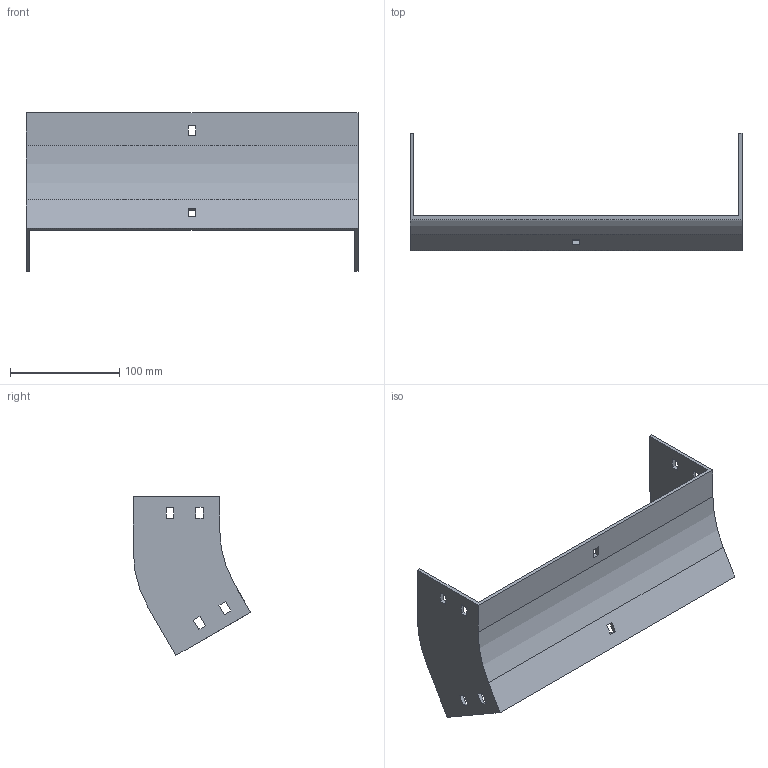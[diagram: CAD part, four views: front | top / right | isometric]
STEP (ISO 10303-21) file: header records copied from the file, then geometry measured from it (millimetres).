
FILE_DESCRIPTION (( 'STEP AP214' ), '1' );
FILE_NAME ('35F1C300.step', '2025-02-21T12:49:59', ( '' ), ( '' ), 'SwSTEP 2.0', 'SolidWorks 2023', '' );
FILE_SCHEMA (( 'AUTOMOTIVE_DESIGN' ));
Length unit declared in the file: millimetre
Products named in the file (1): 35F1C300
Bounding box: 304 x 107.4 x 145.48 mm (x, y, z)
Volume: 189902.2 mm3; surface area: 113946 mm2
Topology: 1 solids, 1 shells, 58 faces, 168 edges, 112 vertices
Faces by surface type: plane 54, cylinder 4
Entity records: 1943 total; most frequent: CARTESIAN_POINT 339, ORIENTED_EDGE 336, DIRECTION 294, EDGE_CURVE 168, LINE 160, VECTOR 160, VERTEX_POINT 112, EDGE_LOOP 78
